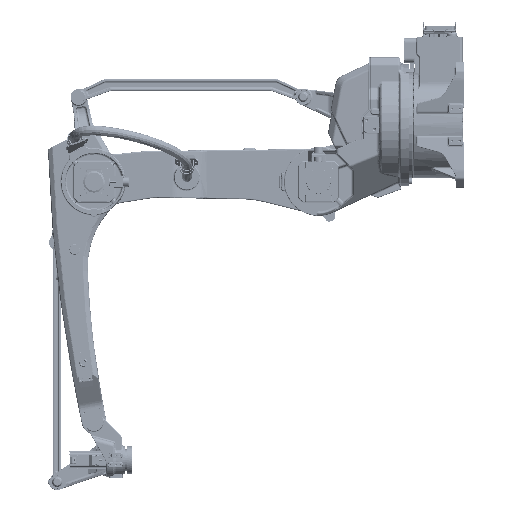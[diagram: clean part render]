
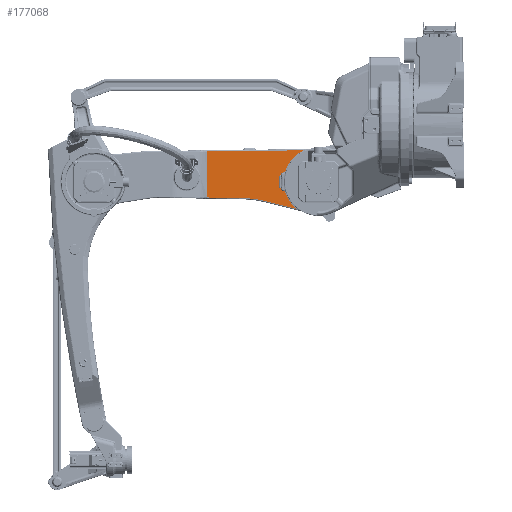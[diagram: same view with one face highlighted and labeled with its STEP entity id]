
A CAD part, left-side view. The second image highlights one B-rep face of the part: STEP entity #177068.
In plain terms, the highlighted planar face has unit normal (-1, 0, 0) as drawn and (1, 0, 0) by its records, which use the part's own axes.
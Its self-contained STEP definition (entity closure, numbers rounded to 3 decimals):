
#168281=CARTESIAN_POINT('',(-10.,123.,17.));
#168282=DIRECTION('',(1.,0.,0.));
#168283=DIRECTION('',(0.,1.,0.));
#168284=AXIS2_PLACEMENT_3D('',#168281,#168282,#168283);
#168286=CARTESIAN_POINT('',(-10.,123.079,
21.268));
#168287=CARTESIAN_POINT('',(-10.,122.824,
21.24));
#168288=CARTESIAN_POINT('',(-10.,122.314,
21.185));
#168289=CARTESIAN_POINT('',(-10.,121.55,
21.103));
#168290=CARTESIAN_POINT('',(-10.,121.04,
21.049));
#168291=CARTESIAN_POINT('',(-10.,120.785,
21.023));
#168293=CARTESIAN_POINT('',(-10.,0.,0.));
#168294=DIRECTION('',(1.,0.,0.));
#168295=DIRECTION('',(0.,0.981,0.195));
#168296=AXIS2_PLACEMENT_3D('',#168293,#168294,#168295);
#168298=DIRECTION('',(0.,0.97,-0.243));
#168299=VECTOR('',#168298,108.814);
#168300=CARTESIAN_POINT('',(-10.,70.131,
88.604));
#168301=LINE('',#168300,#168299);
#168302=CARTESIAN_POINT('',(-10.,249.612,357.012));
#168303=DIRECTION('',(1.,0.,0.));
#168304=DIRECTION('',(0.,-0.243,-0.97));
#168305=AXIS2_PLACEMENT_3D('',#168302,#168303,#168304);
#168307=DIRECTION('',(0.,1.,-0.017));
#168308=VECTOR('',#168307,117.546);
#168309=CARTESIAN_POINT('',(-10.,244.307,53.058));
#168310=LINE('',#168309,#168308);
#168311=DIRECTION('',(0.,-1.,
-0.012));
#168312=VECTOR('',#168311,314.105);
#168313=CARTESIAN_POINT('',(-10.,361.835,
-98.504));
#168314=LINE('',#168313,#168312);
#168315=CARTESIAN_POINT('',(-10.,0.,0.));
#168316=DIRECTION('',(1.,0.,0.));
#168317=DIRECTION('',(0.,0.423,-0.906));
#168318=AXIS2_PLACEMENT_3D('',#168315,#168316,#168317);
#168320=DIRECTION('',(0.,1.,0.));
#168321=VECTOR('',#168320,12.162);
#168322=CARTESIAN_POINT('',(-10.,110.838,
-22.));
#168323=LINE('',#168322,#168321);
#168324=CARTESIAN_POINT('',(-10.,123.,-17.));
#168325=DIRECTION('',(1.,0.,0.));
#168326=DIRECTION('',(0.,0.,-1.));
#168327=AXIS2_PLACEMENT_3D('',#168324,#168325,#168326);
#168329=DIRECTION('',(0.,1.,0.012));
#168330=VECTOR('',#168329,22.397);
#168331=CARTESIAN_POINT('',(-10.,89.146,-87.897));
#168332=LINE('',#168331,#168330);
#168333=CARTESIAN_POINT('',(-10.,89.072,-81.898));
#168334=DIRECTION('',(1.,0.,0.));
#168335=DIRECTION('',(0.,-0.302,-0.953));
#168336=AXIS2_PLACEMENT_3D('',#168333,#168334,#168335);
#168338=DIRECTION('',(0.,0.,
-1.));
#168339=VECTOR('',#168338,34.001);
#168340=CARTESIAN_POINT('',(-10.,128.,17.));
#168341=LINE('',#168340,#168339);
#168398=DIRECTION('',(0.,1.,0.));
#168399=VECTOR('',#168398,4.157);
#168400=CARTESIAN_POINT('',(-10.,110.838,
22.));
#168401=LINE('',#168400,#168399);
#168406=CARTESIAN_POINT('',(-10.,114.995,
22.));
#168407=CARTESIAN_POINT('',(-10.,115.651,
21.704));
#168408=CARTESIAN_POINT('',(-10.,116.956,
21.239));
#168409=CARTESIAN_POINT('',(-10.,118.921,
20.931));
#168410=CARTESIAN_POINT('',(-10.,120.17,
20.958));
#168411=CARTESIAN_POINT('',(-10.,120.785,
21.023));
#168438=CARTESIAN_POINT('',(-10.,123.079,
21.268));
#168439=CARTESIAN_POINT('',(-10.,123.363,
21.298));
#168440=CARTESIAN_POINT('',(-10.,123.92,
21.343));
#168441=CARTESIAN_POINT('',(-10.,124.727,
21.363));
#168442=CARTESIAN_POINT('',(-10.,125.244,
21.347));
#168443=CARTESIAN_POINT('',(-10.,125.498,
21.331));
#168813=DIRECTION('',(0.,0.,1.));
#168814=VECTOR('',#168813,149.511);
#168815=CARTESIAN_POINT('',(-10.,361.835,
-98.504));
#168816=LINE('',#168815,#168814);
#174807=CARTESIAN_POINT('',(-10.013,89.143,
-87.621));
#174808=CARTESIAN_POINT('',(-10.013,91.653,
-87.621));
#174809=CARTESIAN_POINT('',(-9.994,96.658,
-87.618));
#174810=CARTESIAN_POINT('',(-10.002,104.124,
-87.619));
#174811=CARTESIAN_POINT('',(-10.,109.074,-87.619));
#174812=CARTESIAN_POINT('',(-10.,111.542,-87.619));
#174814=CARTESIAN_POINT('',(-10.,87.263,-87.619));
#174815=CARTESIAN_POINT('',(-10.,87.474,-87.619));
#174816=CARTESIAN_POINT('',(-10.002,87.895,
-87.619));
#174817=CARTESIAN_POINT('',(-9.994,88.514,
-87.618));
#174818=CARTESIAN_POINT('',(-10.013,88.933,
-87.621));
#174819=CARTESIAN_POINT('',(-10.013,89.143,
-87.621));
#175236=CARTESIAN_POINT('',(-10.,110.838,-22.));
#175237=VERTEX_POINT('',#175236);
#175240=CARTESIAN_POINT('',(-10.,128.,17.));
#175241=CARTESIAN_POINT('',(-10.,125.498,21.331));
#175242=VERTEX_POINT('',#175240);
#175243=VERTEX_POINT('',#175241);
#175244=VERTEX_POINT('',#168286);
#175245=VERTEX_POINT('',#168291);
#175246=CARTESIAN_POINT('',(-10.,110.838,
22.));
#175247=CARTESIAN_POINT('',(-10.,114.995,
22.));
#175248=VERTEX_POINT('',#175246);
#175249=VERTEX_POINT('',#175247);
#175250=CARTESIAN_POINT('',(-10.,70.131,88.604));
#175251=VERTEX_POINT('',#175250);
#175252=CARTESIAN_POINT('',(-10.,175.678,62.14));
#175253=VERTEX_POINT('',#175252);
#175254=CARTESIAN_POINT('',(-10.,244.307,53.058));
#175255=VERTEX_POINT('',#175254);
#175256=CARTESIAN_POINT('',(-10.,361.835,
51.007));
#175257=VERTEX_POINT('',#175256);
#175258=CARTESIAN_POINT('',(-10.,361.835,
-98.504));
#175259=CARTESIAN_POINT('',(-10.,47.754,
-102.414));
#175260=VERTEX_POINT('',#175258);
#175261=VERTEX_POINT('',#175259);
#175262=CARTESIAN_POINT('',(-10.,122.999,-22.));
#175263=VERTEX_POINT('',#175262);
#175264=CARTESIAN_POINT('',(-10.,128.,
-17.001));
#175265=VERTEX_POINT('',#175264);
#175266=CARTESIAN_POINT('',(-10.,89.146,-87.897));
#175267=CARTESIAN_POINT('',(-10.,111.542,-87.619));
#175268=VERTEX_POINT('',#175266);
#175269=VERTEX_POINT('',#175267);
#175270=CARTESIAN_POINT('',(-10.,87.263,-87.619));
#175271=VERTEX_POINT('',#175270);
#176492=VERTEX_POINT('',#174807);
#177022=CARTESIAN_POINT('',(-10.,204.794,-6.905));
#177023=DIRECTION('',(1.,0.,0.));
#177024=DIRECTION('',(0.,0.,1.));
#177025=AXIS2_PLACEMENT_3D('',#177022,#177023,#177024);
#177026=PLANE('',#177025);
#177028=ORIENTED_EDGE('',*,*,#177027,.T.);
#177030=ORIENTED_EDGE('',*,*,#177029,.F.);
#177032=ORIENTED_EDGE('',*,*,#177031,.T.);
#177034=ORIENTED_EDGE('',*,*,#177033,.F.);
#177036=ORIENTED_EDGE('',*,*,#177035,.F.);
#177038=ORIENTED_EDGE('',*,*,#177037,.T.);
#177040=ORIENTED_EDGE('',*,*,#177039,.T.);
#177042=ORIENTED_EDGE('',*,*,#177041,.T.);
#177044=ORIENTED_EDGE('',*,*,#177043,.T.);
#177046=ORIENTED_EDGE('',*,*,#177045,.F.);
#177048=ORIENTED_EDGE('',*,*,#177047,.T.);
#177050=ORIENTED_EDGE('',*,*,#177049,.T.);
#177051=ORIENTED_EDGE('',*,*,#177012,.T.);
#177053=ORIENTED_EDGE('',*,*,#177052,.T.);
#177055=ORIENTED_EDGE('',*,*,#177054,.F.);
#177056=EDGE_LOOP('',(#177028,#177030,#177032,#177034,#177036,#177038,#177040,
#177042,#177044,#177046,#177048,#177050,#177051,#177053,#177055));
#177057=FACE_OUTER_BOUND('',#177056,.F.);
#177059=ORIENTED_EDGE('',*,*,#177058,.T.);
#177061=ORIENTED_EDGE('',*,*,#177060,.F.);
#177063=ORIENTED_EDGE('',*,*,#177062,.F.);
#177065=ORIENTED_EDGE('',*,*,#177064,.T.);
#177066=EDGE_LOOP('',(#177059,#177061,#177063,#177065));
#177067=FACE_BOUND('',#177066,.F.);
#177068=ADVANCED_FACE('',(#177057,#177067),#177026,.T.);
#168285=CIRCLE('',#168284,5.);
#168292=B_SPLINE_CURVE_WITH_KNOTS('',3,(#168286,#168287,#168288,#168289,#168290,
#168291),.UNSPECIFIED.,.F.,.F.,(4,1,1,4),(0.,0.333,
0.667,1.),.UNSPECIFIED.);
#168297=CIRCLE('',#168296,113.);
#168306=CIRCLE('',#168305,304.);
#168319=CIRCLE('',#168318,113.);
#168328=CIRCLE('',#168327,5.);
#168337=CIRCLE('',#168336,6.);
#168412=B_SPLINE_CURVE_WITH_KNOTS('',3,(#168406,#168407,#168408,#168409,#168410,
#168411),.UNSPECIFIED.,.F.,.F.,(4,1,1,4),(0.,0.333,
0.667,1.),.UNSPECIFIED.);
#168444=B_SPLINE_CURVE_WITH_KNOTS('',3,(#168438,#168439,#168440,#168441,#168442,
#168443),.UNSPECIFIED.,.F.,.F.,(4,1,1,4),(0.,0.333,
0.667,1.),.UNSPECIFIED.);
#174813=B_SPLINE_CURVE_WITH_KNOTS('',3,(#174807,#174808,#174809,#174810,#174811,
#174812),.UNSPECIFIED.,.F.,.F.,(4,1,1,4),(0.,0.333,
0.667,1.),.UNSPECIFIED.);
#174820=B_SPLINE_CURVE_WITH_KNOTS('',3,(#174814,#174815,#174816,#174817,#174818,
#174819),.UNSPECIFIED.,.F.,.F.,(4,1,1,4),(0.,0.333,
0.667,1.),.UNSPECIFIED.);
#177012=EDGE_CURVE('',#175237,#175263,#168323,.T.);
#177027=EDGE_CURVE('',#175242,#175243,#168285,.T.);
#177029=EDGE_CURVE('',#175244,#175243,#168444,.T.);
#177031=EDGE_CURVE('',#175244,#175245,#168292,.T.);
#177033=EDGE_CURVE('',#175249,#175245,#168412,.T.);
#177035=EDGE_CURVE('',#175248,#175249,#168401,.T.);
#177037=EDGE_CURVE('',#175248,#175251,#168297,.T.);
#177039=EDGE_CURVE('',#175251,#175253,#168301,.T.);
#177041=EDGE_CURVE('',#175253,#175255,#168306,.T.);
#177043=EDGE_CURVE('',#175255,#175257,#168310,.T.);
#177045=EDGE_CURVE('',#175260,#175257,#168816,.T.);
#177047=EDGE_CURVE('',#175260,#175261,#168314,.T.);
#177049=EDGE_CURVE('',#175261,#175237,#168319,.T.);
#177052=EDGE_CURVE('',#175263,#175265,#168328,.T.);
#177054=EDGE_CURVE('',#175242,#175265,#168341,.T.);
#177058=EDGE_CURVE('',#175268,#175269,#168332,.T.);
#177060=EDGE_CURVE('',#176492,#175269,#174813,.T.);
#177062=EDGE_CURVE('',#175271,#176492,#174820,.T.);
#177064=EDGE_CURVE('',#175271,#175268,#168337,.T.);
